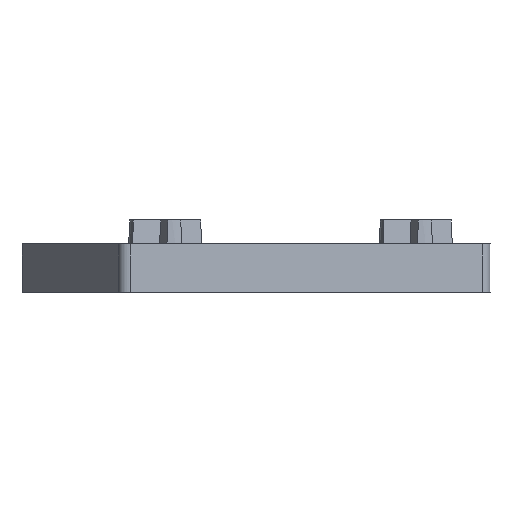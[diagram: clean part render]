
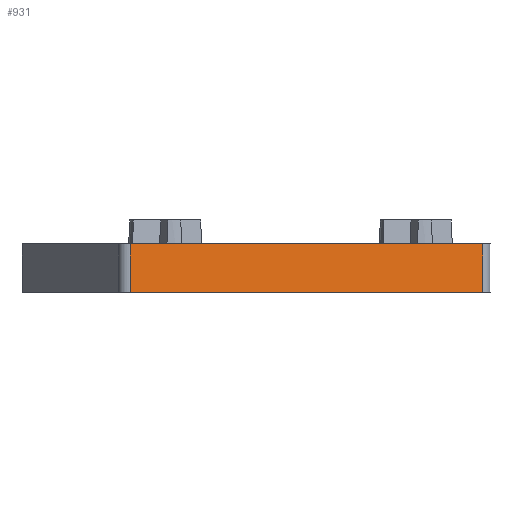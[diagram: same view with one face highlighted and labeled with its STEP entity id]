
A CAD part, left-side view. The second image highlights one B-rep face of the part: STEP entity #931.
In plain terms, the highlighted planar face has unit normal (-0.966, -0.259, 0).
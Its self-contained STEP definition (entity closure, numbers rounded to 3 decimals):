
#52 = ORIENTED_EDGE ( 'NONE', *, *, #1311, .T. ) ;
#150 = AXIS2_PLACEMENT_3D ( 'NONE', #1392, #2275, #1012 ) ;
#328 = ORIENTED_EDGE ( 'NONE', *, *, #2068, .T. ) ;
#340 = EDGE_CURVE ( 'NONE', #2414, #400, #972, .T. ) ;
#400 = VERTEX_POINT ( 'NONE', #1510 ) ;
#430 = CARTESIAN_POINT ( 'NONE',  ( -38.637, 31.058, 0. ) ) ;
#721 = DIRECTION ( 'NONE',  ( 0., 0., -1. ) ) ;
#755 = CARTESIAN_POINT ( 'NONE',  ( -28.543, -6.613, 0. ) ) ;
#785 = DIRECTION ( 'NONE',  ( 0., 0., 1. ) ) ;
#801 = PLANE ( 'NONE',  #150 ) ;
#925 = CARTESIAN_POINT ( 'NONE',  ( -38.378, 30.092, 0. ) ) ;
#931 = ADVANCED_FACE ( 'NONE', ( #1354 ), #801, .T. ) ;
#972 = LINE ( 'NONE', #755, #2229 ) ;
#1012 = DIRECTION ( 'NONE',  ( 0.259, -0.966, 0. ) ) ;
#1032 = VERTEX_POINT ( 'NONE', #1246 ) ;
#1110 = DIRECTION ( 'NONE',  ( 0.259, -0.966, 0. ) ) ;
#1149 = CARTESIAN_POINT ( 'NONE',  ( -28.543, -6.613, 0. ) ) ;
#1246 = CARTESIAN_POINT ( 'NONE',  ( -38.378, 30.092, 5. ) ) ;
#1291 = LINE ( 'NONE', #925, #1375 ) ;
#1311 = EDGE_CURVE ( 'NONE', #1479, #2414, #1900, .T. ) ;
#1354 = FACE_OUTER_BOUND ( 'NONE', #2011, .T. ) ;
#1375 = VECTOR ( 'NONE', #721, 1000. ) ;
#1392 = CARTESIAN_POINT ( 'NONE',  ( -38.637, 31.058, 0. ) ) ;
#1479 = VERTEX_POINT ( 'NONE', #2185 ) ;
#1510 = CARTESIAN_POINT ( 'NONE',  ( -28.543, -6.613, 5. ) ) ;
#1574 = DIRECTION ( 'NONE',  ( 0.259, -0.966, 0. ) ) ;
#1900 = LINE ( 'NONE', #430, #1969 ) ;
#1969 = VECTOR ( 'NONE', #1574, 1000. ) ;
#2011 = EDGE_LOOP ( 'NONE', ( #52, #2248, #2062, #328 ) ) ;
#2062 = ORIENTED_EDGE ( 'NONE', *, *, #2371, .F. ) ;
#2064 = CARTESIAN_POINT ( 'NONE',  ( -38.637, 31.058, 5. ) ) ;
#2068 = EDGE_CURVE ( 'NONE', #1032, #1479, #1291, .T. ) ;
#2073 = VECTOR ( 'NONE', #1110, 1000. ) ;
#2185 = CARTESIAN_POINT ( 'NONE',  ( -38.378, 30.092, 0. ) ) ;
#2229 = VECTOR ( 'NONE', #785, 1000. ) ;
#2248 = ORIENTED_EDGE ( 'NONE', *, *, #340, .T. ) ;
#2275 = DIRECTION ( 'NONE',  ( -0.966, -0.259, 0. ) ) ;
#2276 = LINE ( 'NONE', #2064, #2073 ) ;
#2371 = EDGE_CURVE ( 'NONE', #1032, #400, #2276, .T. ) ;
#2414 = VERTEX_POINT ( 'NONE', #1149 ) ;
